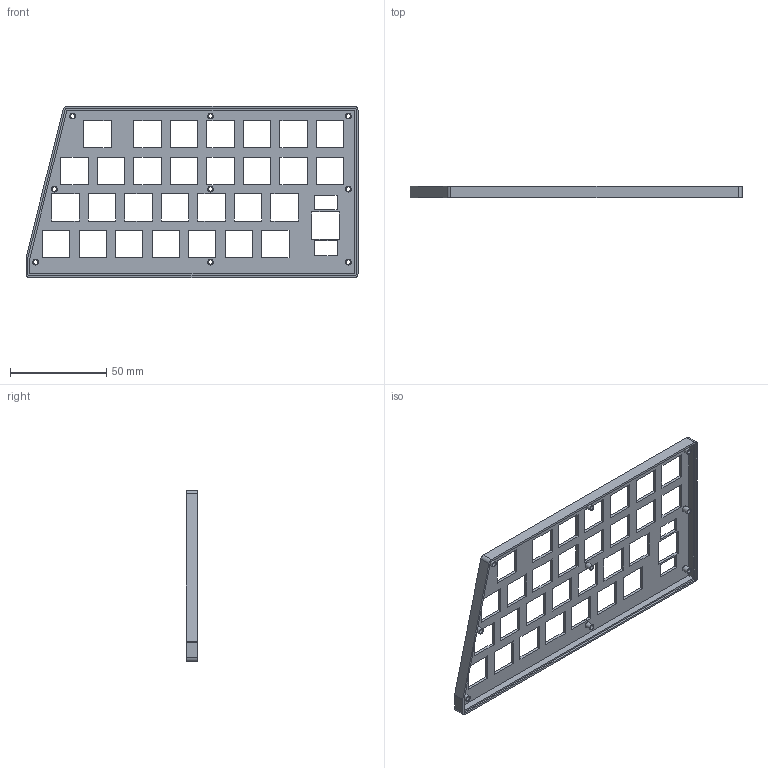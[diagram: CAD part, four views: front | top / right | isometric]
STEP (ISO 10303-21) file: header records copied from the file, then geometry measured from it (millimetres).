
FILE_DESCRIPTION(/* description */ (''),/* implementation_level */ '2;1');
FILE_NAME(/* name */ 'cradoll_keyboard_right_case_top v19.step',/* time_stamp */ '2025-06-19T10:20:29+09:00',/* author */ (''),/* organization */ (''),/* preprocessor_version */ 'ST-DEVELOPER v20.1',/* originating_system */ 'Autodesk Translation Framework v14.10.0.0',/* authorisation */ '');
FILE_SCHEMA (('AUTOMOTIVE_DESIGN { 1 0 10303 214 3 1 1 }'));
Length unit declared in the file: millimetre
Products named in the file (1): cradoll_keyboard_right_case_top
Bounding box: 172.75 x 6 x 89 mm (x, y, z)
Volume: 16494.8 mm3; surface area: 25161.7 mm2
Topology: 1 solids, 1 shells, 193 faces, 531 edges, 351 vertices
Faces by surface type: plane 156, cylinder 28, cone 9
Full cylindrical faces by diameter (mm): 2.4 x9, 3 x9
Entity records: 6262 total; most frequent: CARTESIAN_POINT 1076, ORIENTED_EDGE 1062, DIRECTION 984, EDGE_CURVE 531, LINE 466, VECTOR 466, VERTEX_POINT 351, EDGE_LOOP 286
